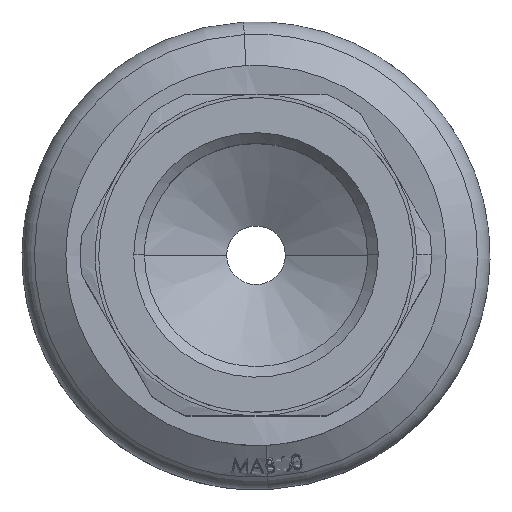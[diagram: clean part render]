
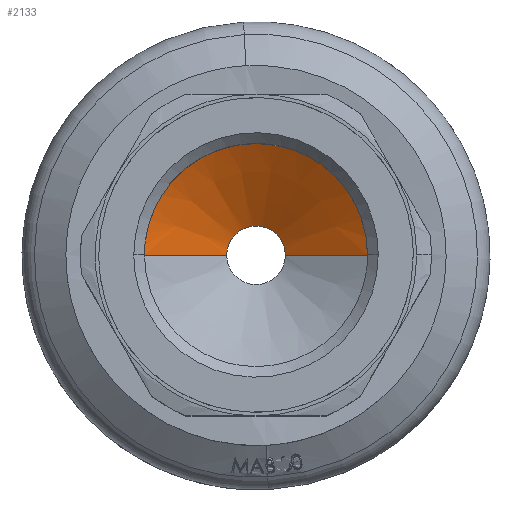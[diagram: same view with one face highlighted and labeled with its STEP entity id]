
A CAD part, top view. The second image highlights one B-rep face of the part: STEP entity #2133.
In plain terms, the highlighted conical face has half-angle 59 degrees and reference radius 7.625 mm.
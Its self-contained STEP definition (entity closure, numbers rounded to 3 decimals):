
#67 = VERTEX_POINT ( 'NONE', #4245 ) ;
#104 = CARTESIAN_POINT ( 'NONE',  ( -0.523, 1.948, 20.12 ) ) ;
#187 = CARTESIAN_POINT ( 'NONE',  ( -6.663, 3.84, 23.5 ) ) ;
#329 = ORIENTED_EDGE ( 'NONE', *, *, #4093, .T. ) ;
#527 = CARTESIAN_POINT ( 'NONE',  ( -1.948, 0.523, 20.12 ) ) ;
#707 = CARTESIAN_POINT ( 'NONE',  ( 7.427, 1.996, 23.5 ) ) ;
#745 = CARTESIAN_POINT ( 'NONE',  ( -7.427, 1.996, 23.5 ) ) ;
#810 = CARTESIAN_POINT ( 'NONE',  ( 2., 0., 20.12 ) ) ;
#1025 = CARTESIAN_POINT ( 'NONE',  ( 0.523, 1.948, 20.12 ) ) ;
#1090 = CARTESIAN_POINT ( 'NONE',  ( -1.599, 1.229, 20.12 ) ) ;
#1138 = CARTESIAN_POINT ( 'NONE',  ( -1.996, 7.427, 23.5 ) ) ;
#1170 = CARTESIAN_POINT ( 'NONE',  ( -0.998, 7.625, 23.5 ) ) ;
#1241 = CARTESIAN_POINT ( 'NONE',  ( -4.686, 6.097, 23.5 ) ) ;
#1285 = B_SPLINE_CURVE_WITH_KNOTS ( 'NONE', 3,
 ( #3680, #5225, #707, #1732, #3287, #5730, #2713, #5363, #1662, #1170, #1138, #5330, #1241, #2817, #187, #745, #3183, #3716 ),
 .UNSPECIFIED., .F., .F.,
 ( 4, 2, 2, 2, 2, 2, 2, 2, 4 ),
 ( 0., 0.125, 0.25, 0.375, 0.5, 0.625, 0.75, 0.875, 1. ),
 .UNSPECIFIED. ) ;
#1335 = CARTESIAN_POINT ( 'NONE',  ( 0., 0., 23.5 ) ) ;
#1484 = CARTESIAN_POINT ( 'NONE',  ( 0.262, 2., 20.12 ) ) ;
#1547 = CARTESIAN_POINT ( 'NONE',  ( 1.948, 0.523, 20.12 ) ) ;
#1600 = CARTESIAN_POINT ( 'NONE',  ( 7.625, 0., 23.5 ) ) ;
#1614 = CARTESIAN_POINT ( 'NONE',  ( 1.748, 1.007, 20.12 ) ) ;
#1650 = B_SPLINE_CURVE_WITH_KNOTS ( 'NONE', 3,
 ( #3894, #3863, #2331, #1819 ),
 .UNSPECIFIED., .F., .F.,
 ( 4, 4 ),
 ( 0., 1. ),
 .UNSPECIFIED. ) ;
#1662 = CARTESIAN_POINT ( 'NONE',  ( 0.998, 7.625, 23.5 ) ) ;
#1732 = CARTESIAN_POINT ( 'NONE',  ( 6.663, 3.84, 23.5 ) ) ;
#1819 = CARTESIAN_POINT ( 'NONE',  ( 7.625, 0., 23.5 ) ) ;
#1871 = CARTESIAN_POINT ( 'NONE',  ( -3.875, 0., 21.247 ) ) ;
#2039 = EDGE_CURVE ( 'NONE', #4898, #3404, #1285, .T. ) ;
#2133 = ADVANCED_FACE ( 'NONE', ( #4486 ), #5855, .F. ) ;
#2331 = CARTESIAN_POINT ( 'NONE',  ( 5.75, 0., 22.373 ) ) ;
#2414 = CARTESIAN_POINT ( 'NONE',  ( -2., 0., 20.12 ) ) ;
#2713 = CARTESIAN_POINT ( 'NONE',  ( 3.84, 6.663, 23.5 ) ) ;
#2815 = CARTESIAN_POINT ( 'NONE',  ( -7.625, 0., 23.5 ) ) ;
#2817 = CARTESIAN_POINT ( 'NONE',  ( -6.097, 4.686, 23.5 ) ) ;
#3046 = ORIENTED_EDGE ( 'NONE', *, *, #6023, .F. ) ;
#3070 = CARTESIAN_POINT ( 'NONE',  ( -1.007, 1.748, 20.12 ) ) ;
#3167 = CARTESIAN_POINT ( 'NONE',  ( 1.599, 1.229, 20.12 ) ) ;
#3183 = CARTESIAN_POINT ( 'NONE',  ( -7.625, 0.998, 23.5 ) ) ;
#3287 = CARTESIAN_POINT ( 'NONE',  ( 6.097, 4.686, 23.5 ) ) ;
#3402 = EDGE_CURVE ( 'NONE', #3404, #67, #6014, .T. ) ;
#3404 = VERTEX_POINT ( 'NONE', #6508 ) ;
#3491 = AXIS2_PLACEMENT_3D ( 'NONE', #1335, #5526, #6037 ) ;
#3522 = B_SPLINE_CURVE_WITH_KNOTS ( 'NONE', 3,
 ( #4139, #6123, #1547, #1614, #3167, #3664, #6089, #1025, #1484, #3540, #104, #3070, #5715, #1090, #5110, #527, #5647, #3632 ),
 .UNSPECIFIED., .F., .F.,
 ( 4, 2, 2, 2, 2, 2, 2, 2, 4 ),
 ( -1., -0.875, -0.75, -0.625, -0.5, -0.375, -0.25, -0.125, 0. ),
 .UNSPECIFIED. ) ;
#3540 = CARTESIAN_POINT ( 'NONE',  ( -0.262, 2., 20.12 ) ) ;
#3632 = CARTESIAN_POINT ( 'NONE',  ( -2., 0., 20.12 ) ) ;
#3664 = CARTESIAN_POINT ( 'NONE',  ( 1.229, 1.599, 20.12 ) ) ;
#3680 = CARTESIAN_POINT ( 'NONE',  ( 7.625, 0., 23.5 ) ) ;
#3716 = CARTESIAN_POINT ( 'NONE',  ( -7.625, 0., 23.5 ) ) ;
#3863 = CARTESIAN_POINT ( 'NONE',  ( 3.875, 0., 21.247 ) ) ;
#3894 = CARTESIAN_POINT ( 'NONE',  ( 2., 0., 20.12 ) ) ;
#4093 = EDGE_CURVE ( 'NONE', #4965, #4898, #1650, .T. ) ;
#4139 = CARTESIAN_POINT ( 'NONE',  ( 2., 0., 20.12 ) ) ;
#4245 = CARTESIAN_POINT ( 'NONE',  ( -2., 0., 20.12 ) ) ;
#4486 = FACE_OUTER_BOUND ( 'NONE', #4551, .T. ) ;
#4529 = ORIENTED_EDGE ( 'NONE', *, *, #2039, .T. ) ;
#4551 = EDGE_LOOP ( 'NONE', ( #3046, #329, #4529, #5025 ) ) ;
#4851 = CARTESIAN_POINT ( 'NONE',  ( -5.75, 0., 22.373 ) ) ;
#4898 = VERTEX_POINT ( 'NONE', #1600 ) ;
#4965 = VERTEX_POINT ( 'NONE', #810 ) ;
#5025 = ORIENTED_EDGE ( 'NONE', *, *, #3402, .T. ) ;
#5110 = CARTESIAN_POINT ( 'NONE',  ( -1.748, 1.007, 20.12 ) ) ;
#5225 = CARTESIAN_POINT ( 'NONE',  ( 7.625, 0.998, 23.5 ) ) ;
#5330 = CARTESIAN_POINT ( 'NONE',  ( -3.84, 6.663, 23.5 ) ) ;
#5363 = CARTESIAN_POINT ( 'NONE',  ( 1.996, 7.427, 23.5 ) ) ;
#5526 = DIRECTION ( 'NONE',  ( 0., 0., 1. ) ) ;
#5647 = CARTESIAN_POINT ( 'NONE',  ( -2., 0.262, 20.12 ) ) ;
#5715 = CARTESIAN_POINT ( 'NONE',  ( -1.229, 1.599, 20.12 ) ) ;
#5730 = CARTESIAN_POINT ( 'NONE',  ( 4.686, 6.097, 23.5 ) ) ;
#5855 = CONICAL_SURFACE ( 'NONE', #3491, 7.625, 1.03 ) ;
#6014 = B_SPLINE_CURVE_WITH_KNOTS ( 'NONE', 3,
 ( #2815, #4851, #1871, #2414 ),
 .UNSPECIFIED., .F., .F.,
 ( 4, 4 ),
 ( 0., 1. ),
 .UNSPECIFIED. ) ;
#6023 = EDGE_CURVE ( 'NONE', #4965, #67, #3522, .T. ) ;
#6037 = DIRECTION ( 'NONE',  ( 1., 0., 0. ) ) ;
#6089 = CARTESIAN_POINT ( 'NONE',  ( 1.007, 1.748, 20.12 ) ) ;
#6123 = CARTESIAN_POINT ( 'NONE',  ( 2., 0.262, 20.12 ) ) ;
#6508 = CARTESIAN_POINT ( 'NONE',  ( -7.625, 0., 23.5 ) ) ;
